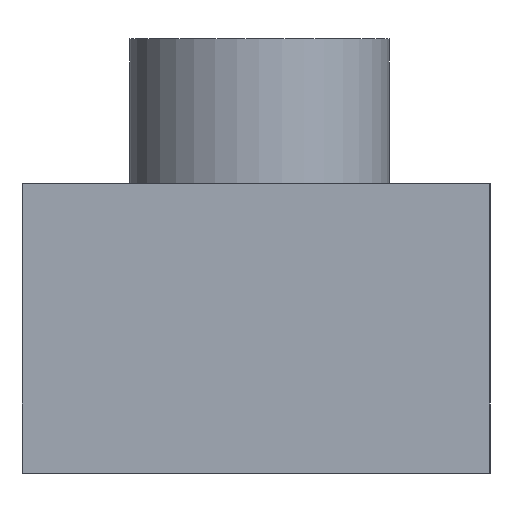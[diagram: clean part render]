
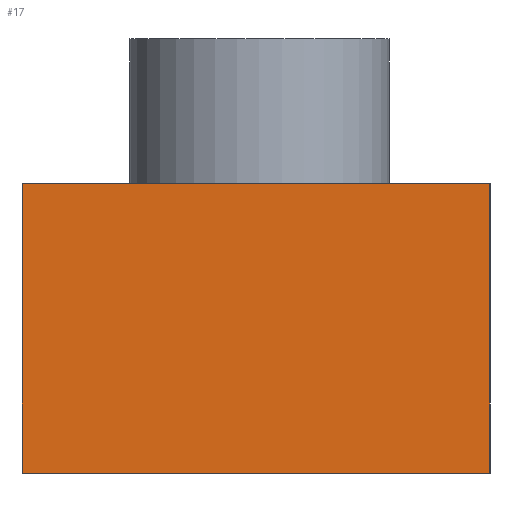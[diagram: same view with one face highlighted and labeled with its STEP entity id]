
A CAD part, left-side view. The second image highlights one B-rep face of the part: STEP entity #17.
In plain terms, the highlighted planar face has unit normal (-1, 0, 0).
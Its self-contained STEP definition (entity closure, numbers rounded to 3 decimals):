
#17 = ADVANCED_FACE('',(#18),#32,.F.);
#18 = FACE_BOUND('',#19,.F.);
#19 = EDGE_LOOP('',(#20,#55,#83,#111));
#20 = ORIENTED_EDGE('',*,*,#21,.T.);
#21 = EDGE_CURVE('',#22,#24,#26,.T.);
#22 = VERTEX_POINT('',#23);
#23 = CARTESIAN_POINT('',(-54.908,19.515,0.));
#24 = VERTEX_POINT('',#25);
#25 = CARTESIAN_POINT('',(-54.908,19.515,10.));
#26 = SURFACE_CURVE('',#27,(#31,#43),.PCURVE_S1.);
#27 = LINE('',#28,#29);
#28 = CARTESIAN_POINT('',(-54.908,19.515,0.));
#29 = VECTOR('',#30,1.);
#30 = DIRECTION('',(0.,0.,1.));
#31 = PCURVE('',#32,#37);
#32 = PLANE('',#33);
#33 = AXIS2_PLACEMENT_3D('',#34,#35,#36);
#34 = CARTESIAN_POINT('',(-54.908,19.515,0.));
#35 = DIRECTION('',(1.,0.,0.));
#36 = DIRECTION('',(0.,-1.,0.));
#37 = DEFINITIONAL_REPRESENTATION('',(#38),#42);
#38 = LINE('',#39,#40);
#39 = CARTESIAN_POINT('',(0.,0.));
#40 = VECTOR('',#41,1.);
#41 = DIRECTION('',(0.,-1.));
#42 = ( GEOMETRIC_REPRESENTATION_CONTEXT(2) 
PARAMETRIC_REPRESENTATION_CONTEXT() REPRESENTATION_CONTEXT('2D SPACE',''
  ) );
#43 = PCURVE('',#44,#49);
#44 = PLANE('',#45);
#45 = AXIS2_PLACEMENT_3D('',#46,#47,#48);
#46 = CARTESIAN_POINT('',(-21.998,19.515,0.));
#47 = DIRECTION('',(0.,-1.,0.));
#48 = DIRECTION('',(-1.,0.,0.));
#49 = DEFINITIONAL_REPRESENTATION('',(#50),#54);
#50 = LINE('',#51,#52);
#51 = CARTESIAN_POINT('',(32.91,0.));
#52 = VECTOR('',#53,1.);
#53 = DIRECTION('',(0.,-1.));
#54 = ( GEOMETRIC_REPRESENTATION_CONTEXT(2) 
PARAMETRIC_REPRESENTATION_CONTEXT() REPRESENTATION_CONTEXT('2D SPACE',''
  ) );
#55 = ORIENTED_EDGE('',*,*,#56,.T.);
#56 = EDGE_CURVE('',#24,#57,#59,.T.);
#57 = VERTEX_POINT('',#58);
#58 = CARTESIAN_POINT('',(-54.908,3.349,10.));
#59 = SURFACE_CURVE('',#60,(#64,#71),.PCURVE_S1.);
#60 = LINE('',#61,#62);
#61 = CARTESIAN_POINT('',(-54.908,19.515,10.));
#62 = VECTOR('',#63,1.);
#63 = DIRECTION('',(0.,-1.,0.));
#64 = PCURVE('',#32,#65);
#65 = DEFINITIONAL_REPRESENTATION('',(#66),#70);
#66 = LINE('',#67,#68);
#67 = CARTESIAN_POINT('',(0.,-10.));
#68 = VECTOR('',#69,1.);
#69 = DIRECTION('',(1.,0.));
#70 = ( GEOMETRIC_REPRESENTATION_CONTEXT(2) 
PARAMETRIC_REPRESENTATION_CONTEXT() REPRESENTATION_CONTEXT('2D SPACE',''
  ) );
#71 = PCURVE('',#72,#77);
#72 = PLANE('',#73);
#73 = AXIS2_PLACEMENT_3D('',#74,#75,#76);
#74 = CARTESIAN_POINT('',(-38.453,11.432,10.));
#75 = DIRECTION('',(0.,0.,1.));
#76 = DIRECTION('',(1.,0.,0.));
#77 = DEFINITIONAL_REPRESENTATION('',(#78),#82);
#78 = LINE('',#79,#80);
#79 = CARTESIAN_POINT('',(-16.455,8.083));
#80 = VECTOR('',#81,1.);
#81 = DIRECTION('',(0.,-1.));
#82 = ( GEOMETRIC_REPRESENTATION_CONTEXT(2) 
PARAMETRIC_REPRESENTATION_CONTEXT() REPRESENTATION_CONTEXT('2D SPACE',''
  ) );
#83 = ORIENTED_EDGE('',*,*,#84,.F.);
#84 = EDGE_CURVE('',#85,#57,#87,.T.);
#85 = VERTEX_POINT('',#86);
#86 = CARTESIAN_POINT('',(-54.908,3.349,0.));
#87 = SURFACE_CURVE('',#88,(#92,#99),.PCURVE_S1.);
#88 = LINE('',#89,#90);
#89 = CARTESIAN_POINT('',(-54.908,3.349,0.));
#90 = VECTOR('',#91,1.);
#91 = DIRECTION('',(0.,0.,1.));
#92 = PCURVE('',#32,#93);
#93 = DEFINITIONAL_REPRESENTATION('',(#94),#98);
#94 = LINE('',#95,#96);
#95 = CARTESIAN_POINT('',(16.166,0.));
#96 = VECTOR('',#97,1.);
#97 = DIRECTION('',(0.,-1.));
#98 = ( GEOMETRIC_REPRESENTATION_CONTEXT(2) 
PARAMETRIC_REPRESENTATION_CONTEXT() REPRESENTATION_CONTEXT('2D SPACE',''
  ) );
#99 = PCURVE('',#100,#105);
#100 = PLANE('',#101);
#101 = AXIS2_PLACEMENT_3D('',#102,#103,#104);
#102 = CARTESIAN_POINT('',(-54.908,3.349,0.));
#103 = DIRECTION('',(0.,1.,0.));
#104 = DIRECTION('',(1.,0.,0.));
#105 = DEFINITIONAL_REPRESENTATION('',(#106),#110);
#106 = LINE('',#107,#108);
#107 = CARTESIAN_POINT('',(0.,0.));
#108 = VECTOR('',#109,1.);
#109 = DIRECTION('',(0.,-1.));
#110 = ( GEOMETRIC_REPRESENTATION_CONTEXT(2) 
PARAMETRIC_REPRESENTATION_CONTEXT() REPRESENTATION_CONTEXT('2D SPACE',''
  ) );
#111 = ORIENTED_EDGE('',*,*,#112,.F.);
#112 = EDGE_CURVE('',#22,#85,#113,.T.);
#113 = SURFACE_CURVE('',#114,(#118,#125),.PCURVE_S1.);
#114 = LINE('',#115,#116);
#115 = CARTESIAN_POINT('',(-54.908,19.515,0.));
#116 = VECTOR('',#117,1.);
#117 = DIRECTION('',(0.,-1.,0.));
#118 = PCURVE('',#32,#119);
#119 = DEFINITIONAL_REPRESENTATION('',(#120),#124);
#120 = LINE('',#121,#122);
#121 = CARTESIAN_POINT('',(0.,0.));
#122 = VECTOR('',#123,1.);
#123 = DIRECTION('',(1.,0.));
#124 = ( GEOMETRIC_REPRESENTATION_CONTEXT(2) 
PARAMETRIC_REPRESENTATION_CONTEXT() REPRESENTATION_CONTEXT('2D SPACE',''
  ) );
#125 = PCURVE('',#126,#131);
#126 = PLANE('',#127);
#127 = AXIS2_PLACEMENT_3D('',#128,#129,#130);
#128 = CARTESIAN_POINT('',(-38.453,11.432,0.));
#129 = DIRECTION('',(0.,0.,1.));
#130 = DIRECTION('',(1.,0.,0.));
#131 = DEFINITIONAL_REPRESENTATION('',(#132),#136);
#132 = LINE('',#133,#134);
#133 = CARTESIAN_POINT('',(-16.455,8.083));
#134 = VECTOR('',#135,1.);
#135 = DIRECTION('',(0.,-1.));
#136 = ( GEOMETRIC_REPRESENTATION_CONTEXT(2) 
PARAMETRIC_REPRESENTATION_CONTEXT() REPRESENTATION_CONTEXT('2D SPACE',''
  ) );
